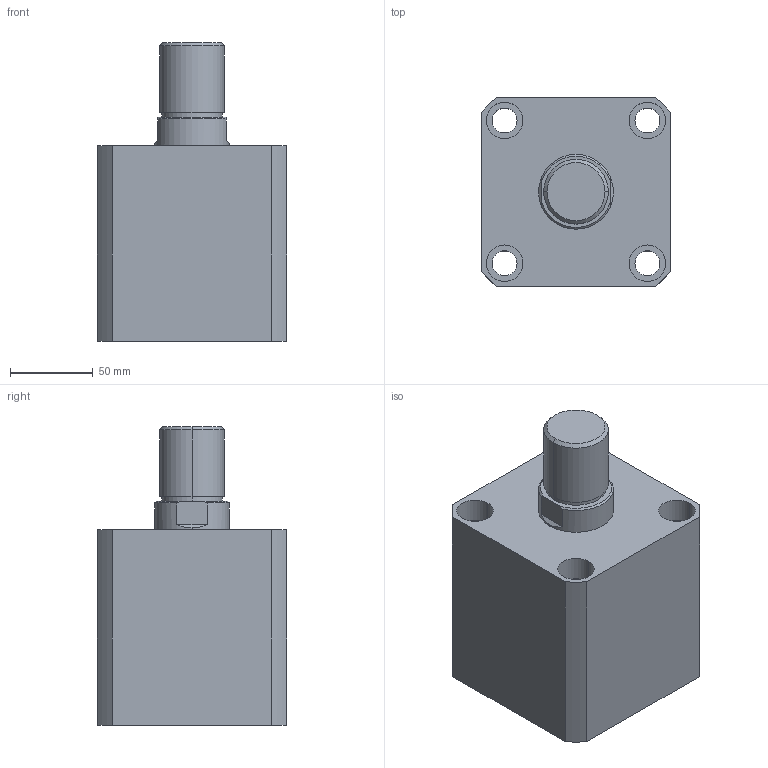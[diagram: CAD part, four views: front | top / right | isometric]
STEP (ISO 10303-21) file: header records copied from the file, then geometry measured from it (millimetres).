
FILE_DESCRIPTION (( 'STEP AP203' ), '1' );
FILE_NAME ('HTB-SDMB80-40W.STEP', '2019-10-09T06:03:53', ( '微软用户' ), ( '微软中国' ), 'SwSTEP 2.0', 'SolidWorks 2012', '' );
FILE_SCHEMA (( 'CONFIG_CONTROL_DESIGN' ));
Length unit declared in the file: millimetre
Products named in the file (3): HTB-SDMB80-40掛极; HTB-SDMB80-40W活塞杆; HTB-SDMB80-40W
Assembly tree (2 placements, depth 2):
  HTB-SDMB80-40W
    HTB-SDMB80-40掛极
    HTB-SDMB80-40W活塞杆
Bounding box: 114 x 114 x 180 mm (x, y, z)
Volume: 1348185.4 mm3; surface area: 166125.9 mm2
Topology: 2 solids, 2 shells, 141 faces, 337 edges, 222 vertices
Faces by surface type: plane 67, cylinder 48, bspline 16, torus 6, cone 4
Entity records: 5180 total; most frequent: CARTESIAN_POINT 1597, ORIENTED_EDGE 674, DIRECTION 669, EDGE_CURVE 337, AXIS2_PLACEMENT_3D 242, VERTEX_POINT 222, LINE 185, VECTOR 185
